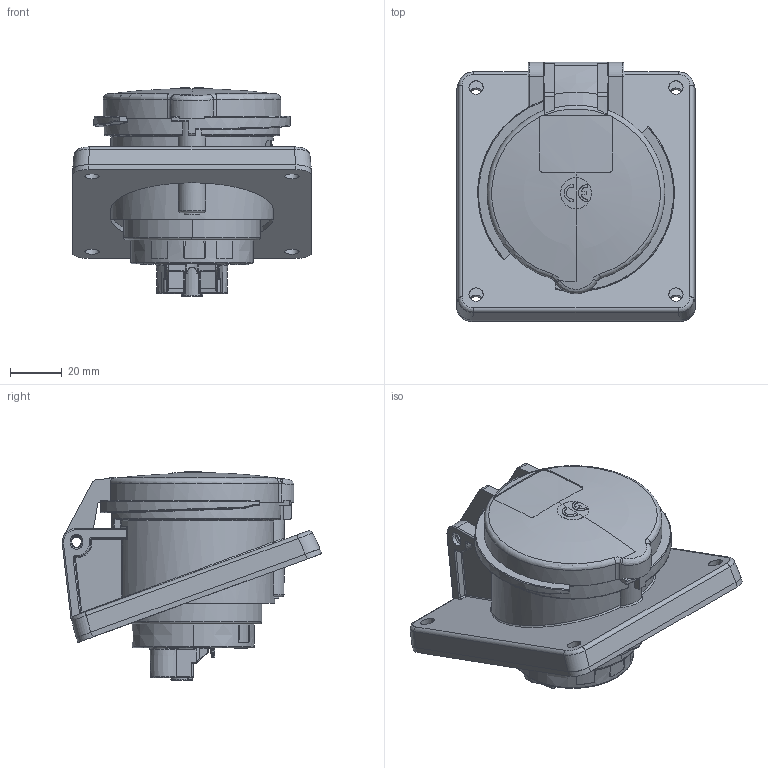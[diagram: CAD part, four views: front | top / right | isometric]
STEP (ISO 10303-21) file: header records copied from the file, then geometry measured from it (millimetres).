
FILE_DESCRIPTION((''),'2;1');
FILE_NAME('1473_SW0001','2017-11-02T',('gisse'),('MENNEKES'),'PRO/ENGINEER BY PARAMETRIC TECHNOLOGY CORPORATION, 2015440','PRO/ENGINEER BY PARAMETRIC TECHNOLOGY CORPORATION, 2015440','');
FILE_SCHEMA(('AUTOMOTIVE_DESIGN { 1 0 10303 214 1 1 1 1 }'));
Products named in the file (1): 1473_SW0001
Bounding box: 92 x 100.05 x 80.4 mm (x, y, z)
Volume: 269640.6 mm3; surface area: 44181.8 mm2
Topology: 1 solids, 1 shells, 1662 faces, 4542 edges, 2951 vertices
Faces by surface type: plane 1229, cylinder 234, torus 70, bspline 66, cone 38, sphere 19, extrusion 6
Entity records: 90164 total; most frequent: CARTESIAN_POINT 15787, ORIENTED_EDGE 9076, DIRECTION 7407, PRESENTATION_STYLE_ASSIGNMENT 6204, STYLED_ITEM 4545, CURVE_STYLE 4544, EDGE_CURVE 4538, FILL_AREA_STYLE_COLOUR 3319
